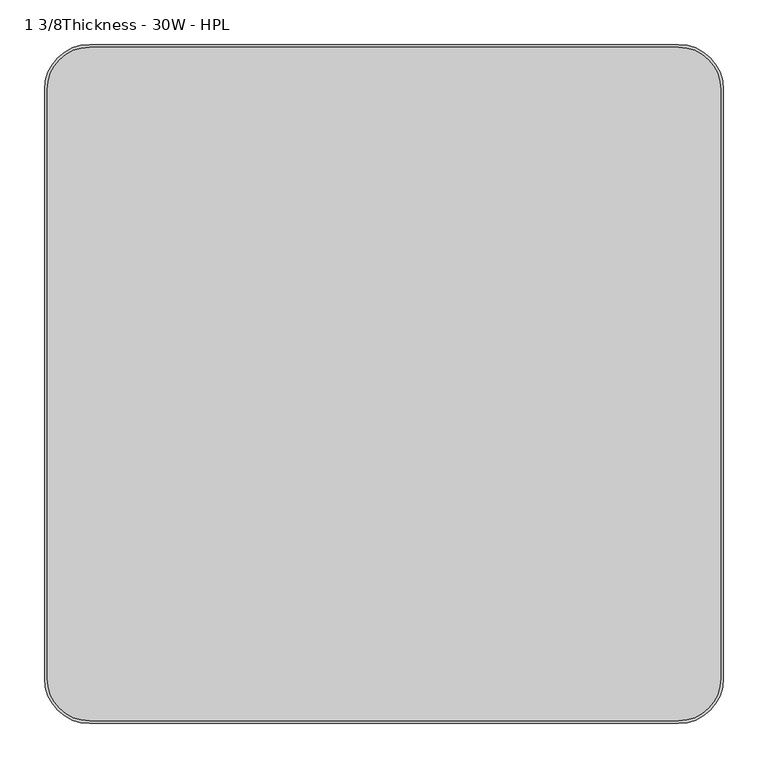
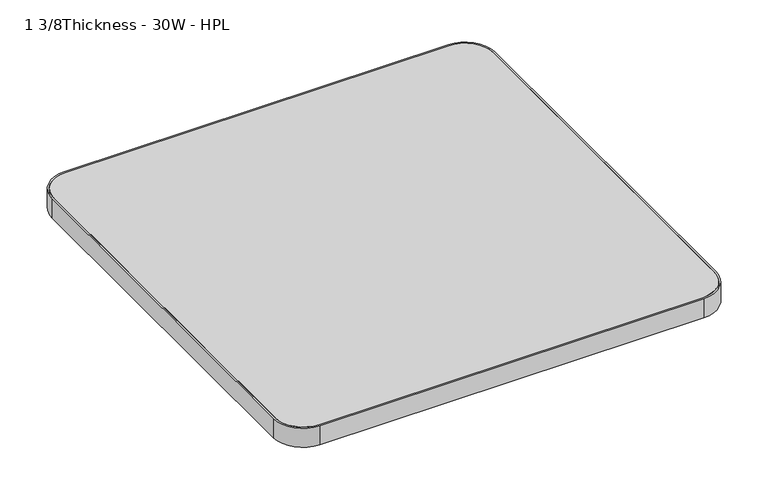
"""IFC4 building model written with IfcOpenShell, lengths in millimetres: furniture geometry, Steelcase - Groupwork - Table - Top - Square : 1 3/8Thickness - 30W - HPL."""

import ifcopenshell
import ifcopenshell.guid

model = None  # the IFC model being written
_history = None  # IfcOwnerHistory: only IFC2X3 demands one
_inside = {}  # id of a spatial element -> (the spatial element, [elements in it])
_under = {}  # id of a project, library or spatial element -> (it, [spatial elements below it])
_declared = {}  # id of a project -> (the project, [libraries it declares])
_typed = {}  # id of a type object -> (the type object, [elements of that type])
_made_of = {}  # id of a material, layer set ... -> (it, [elements and type objects made of it])


def new_model(schema):
    """Start an empty IFC model of exactly this schema.

    Asked for "IFC4X3", IfcOpenShell would pick the latest addendum, in which some entities
    have other attributes; the version numbers below select the first issue.
    IFC2X3 requires an IfcOwnerHistory on every rooted entity: one is made here for all.
    """
    global model, _history
    if schema == "IFC4X3":
        model = ifcopenshell.file(schema_version=(4, 3, 0, 0))
    else:
        model = ifcopenshell.file(schema=schema)
    _inside.clear()
    _under.clear()
    _declared.clear()
    _typed.clear()
    _made_of.clear()
    _history = None
    if model.schema == "IFC2X3":
        org = make("IfcOrganization", Name="unknown")
        user = make(
            "IfcPersonAndOrganization",
            ThePerson=make("IfcPerson", FamilyName="unknown"),
            TheOrganization=org,
        )
        app = make(
            "IfcApplication",
            ApplicationDeveloper=org,
            Version="unknown",
            ApplicationFullName="unknown",
            ApplicationIdentifier="unknown",
        )
        _history = make(
            "IfcOwnerHistory",
            OwningUser=user,
            OwningApplication=app,
            ChangeAction="ADDED",
            CreationDate=0,
        )
    return model


def make(cls, **values):
    """One entity of the class cls with the attributes given. An attribute that is None is left unset."""
    return model.create_entity(
        cls, **{name: value for name, value in values.items() if value is not None}
    )


def rooted(cls, **values):
    """An entity with a GlobalId (a new one), such as an element, a storey or a relation."""
    return make(cls, GlobalId=ifcopenshell.guid.new(), OwnerHistory=_history, **values)


def si_unit(unit_type, name, prefix=None):
    """IfcSIUnit, for example si_unit("LENGTHUNIT", "METRE", prefix="MILLI")."""
    return make("IfcSIUnit", UnitType=unit_type, Prefix=prefix, Name=name)


def assignment(units):
    """IfcUnitAssignment: the units of a project."""
    return None if units is None else make("IfcUnitAssignment", Units=units)


def point(xyz):
    """IfcCartesianPoint."""
    return None if xyz is None else make("IfcCartesianPoint", Coordinates=xyz)


def direction(xyz):
    """IfcDirection."""
    return None if xyz is None else make("IfcDirection", DirectionRatios=xyz)


def frame(location, z_axis=None, x_axis=None):
    """IfcAxis2Placement3D, a coordinate frame: its origin and axes. An axis left out is left unset."""
    return make(
        "IfcAxis2Placement3D",
        Location=point(location),
        Axis=direction(z_axis),
        RefDirection=direction(x_axis),
    )


def frame_2d(location, x_axis=None):
    """IfcAxis2Placement2D, a coordinate frame in the plane: its origin and x axis."""
    return make(
        "IfcAxis2Placement2D", Location=point(location), RefDirection=direction(x_axis)
    )


def origin():
    """The frame at (0, 0, 0) with its axes left unset."""
    return frame((0.0, 0.0, 0.0))


def place(relative_to, where):
    """IfcLocalPlacement: puts the frame where relative to a parent placement (None: the world)."""
    return make(
        "IfcLocalPlacement", PlacementRelTo=relative_to, RelativePlacement=where
    )


def context(
    kind, dimensions, precision=None, world=None, true_north=None, identifier=None
):
    """IfcGeometricRepresentationContext, for example the 3D "Model" context."""
    return make(
        "IfcGeometricRepresentationContext",
        ContextIdentifier=identifier,
        ContextType=kind,
        CoordinateSpaceDimension=dimensions,
        Precision=precision,
        WorldCoordinateSystem=world,
        TrueNorth=true_north,
    )


def project(units=None, contexts=None):
    """IfcProject with its units and contexts."""
    return rooted(
        "IfcProject",
        Name="project",
        RepresentationContexts=contexts,
        UnitsInContext=assignment(units),
    )


def spatial(cls, under=None, at=None, **own):
    """A site, building, storey or space (cls), placed at a placement, below another one or the project."""
    s = rooted(cls, ObjectPlacement=at, **own)
    if under is not None:
        _under.setdefault(under.id(), (under, []))[1].append(s)
    return s


def polyline(points):
    """IfcPolyline through the points."""
    return make("IfcPolyline", Points=[point(p) for p in points])


def circle_curve(where, radius):
    """IfcCircle in the frame where."""
    return make("IfcCircle", Position=where, Radius=radius)


def trimmed(basis, trim1, trim2, sense, master):
    """IfcTrimmedCurve: the piece of a basis curve between two trims."""
    return make(
        "IfcTrimmedCurve",
        BasisCurve=basis,
        Trim1=trim1,
        Trim2=trim2,
        SenseAgreement=sense,
        MasterRepresentation=master,
    )


def segment(curve, same_sense, transition):
    """IfcCompositeCurveSegment."""
    return make(
        "IfcCompositeCurveSegment",
        Transition=transition,
        SameSense=same_sense,
        ParentCurve=curve,
    )


def composite_curve(segments, self_intersect=None):
    """IfcCompositeCurve: segments joined end to end."""
    return make("IfcCompositeCurve", Segments=segments, SelfIntersect=self_intersect)


def outline(outer, holes=None, kind="AREA"):
    """IfcArbitraryClosedProfileDef: a profile drawn as a closed curve; with holes, ...WithVoids."""
    if holes is None:
        return make("IfcArbitraryClosedProfileDef", ProfileType=kind, OuterCurve=outer)
    return make(
        "IfcArbitraryProfileDefWithVoids",
        ProfileType=kind,
        OuterCurve=outer,
        InnerCurves=holes,
    )


def extrude(swept, where, along, depth):
    """IfcExtrudedAreaSolid: the profile swept, set in the frame where, extruded along a direction by depth."""
    return make(
        "IfcExtrudedAreaSolid",
        SweptArea=swept,
        Position=where,
        ExtrudedDirection=direction(along),
        Depth=depth,
    )


def shape(context_of_items, identifier, shape_type, items):
    """IfcShapeRepresentation: the items that make up one representation, for example the "Body"."""
    return make(
        "IfcShapeRepresentation",
        ContextOfItems=context_of_items,
        RepresentationIdentifier=identifier,
        RepresentationType=shape_type,
        Items=items,
    )


def source(mapping_origin, context_of_items, identifier, shape_type, items):
    """IfcRepresentationMap: a shape defined once, which mapped items show again and again."""
    return make(
        "IfcRepresentationMap",
        MappingOrigin=mapping_origin,
        MappedRepresentation=shape(context_of_items, identifier, shape_type, items),
    )


def transform(
    local_origin,
    x_axis=None,
    y_axis=None,
    z_axis=None,
    scale=None,
    scale2=None,
    scale3=None,
    uniform=True,
):
    """IfcCartesianTransformationOperator3D, or its non-uniform kind. x_axis, y_axis, z_axis: its Axis1, 2, 3."""
    if uniform:
        return make(
            "IfcCartesianTransformationOperator3D",
            Axis1=direction(x_axis),
            Axis2=direction(y_axis),
            LocalOrigin=point(local_origin),
            Scale=scale,
            Axis3=direction(z_axis),
        )
    return make(
        "IfcCartesianTransformationOperator3DnonUniform",
        Axis1=direction(x_axis),
        Axis2=direction(y_axis),
        LocalOrigin=point(local_origin),
        Scale=scale,
        Axis3=direction(z_axis),
        Scale2=scale2,
        Scale3=scale3,
    )


def mapped(mapping_source, mapping_target):
    """IfcMappedItem: shows the shape of a source again, moved by a transform."""
    return make(
        "IfcMappedItem", MappingSource=mapping_source, MappingTarget=mapping_target
    )


def made_of(thing, what):
    """Note that an element or type object is made of a material, layer set ...; save() writes the relation."""
    if what is not None:
        _made_of.setdefault(what.id(), (what, []))[1].append(thing)
    return thing


def element(
    cls,
    number,
    at=None,
    inside=None,
    cuts=None,
    type_object=None,
    material=None,
    context=None,
    identifier="Body",
    shape_type=None,
    held_by="IfcProductDefinitionShape",
    body=None,
    shapes=None,
    **own,
):
    """One element of the class cls, such as IfcWall. Its Tag is "e" and its number.

    at: its placement. inside: the storey or other place that contains it. cuts: it is an
    opening in that element (IfcRelVoidsElement). A single representation is given by context,
    identifier, shape_type and body (its items); several are given by shapes. held_by: the class
    of the entity that holds the representations. save() writes the other relations.
    """
    e = rooted(cls, Tag="e%d" % number, ObjectPlacement=at, **own)
    if body is not None:
        shapes = [shape(context, identifier, shape_type, body)]
    if shapes is not None:
        e.Representation = make(held_by, Representations=shapes)
    if inside is not None:
        _inside.setdefault(inside.id(), (inside, []))[1].append(e)
    if cuts is not None:
        rooted(
            "IfcRelVoidsElement", RelatingBuildingElement=cuts, RelatedOpeningElement=e
        )
    if type_object is not None:
        _typed.setdefault(type_object.id(), (type_object, []))[1].append(e)
    return made_of(e, material)


def aggregate(whole, parts):
    """IfcRelAggregates: a whole, such as a stair, and the parts it consists of."""
    return rooted("IfcRelAggregates", RelatingObject=whole, RelatedObjects=parts)


def save(model, path):
    """Write the relations noted so far, then the file.

    IfcRelAggregates (storeys below a building ...), IfcRelContainedInSpatialStructure (elements
    in a storey), IfcRelDefinesByType, IfcRelAssociatesMaterial and IfcRelDeclares: one each for
    every whole, place, type object, material and project.
    """
    for whole, parts in _under.values():
        aggregate(whole, parts)
    for where, things in _inside.values():
        rooted(
            "IfcRelContainedInSpatialStructure",
            RelatedElements=things,
            RelatingStructure=where,
        )
    for kind, things in _typed.values():
        rooted("IfcRelDefinesByType", RelatedObjects=things, RelatingType=kind)
    for what, things in _made_of.values():
        rooted("IfcRelAssociatesMaterial", RelatedObjects=things, RelatingMaterial=what)
    for by, libraries in _declared.values():
        rooted("IfcRelDeclares", RelatingContext=by, RelatedDefinitions=libraries)
    model.write(path)


def furniture_1_3_8thickness_30w_hpl_81533f82(model_context):
    return source(origin(), model_context, "Body", "SweptSolid", [
        extrude(outline(composite_curve([segment(polyline([(-358.648, 378.0), (301.848, 378.0)]), True, "CONTINUOUS"), segment(trimmed(circle_curve(frame_2d((301.848, 330.248)), 47.752), [point((301.848, 378.0))], [point((349.6, 330.248))], False, "CARTESIAN"), True, "CONTINUOUS"), segment(polyline([(349.6, 330.248), (349.6, -330.248)]), True, "CONTINUOUS"), segment(trimmed(circle_curve(frame_2d((301.848, -330.248)), 47.752), [point((349.6, -330.248))], [point((301.848, -378.0))], False, "CARTESIAN"), True, "CONTINUOUS"), segment(polyline([(301.848, -378.0), (-358.648, -378.0)]), True, "CONTINUOUS"), segment(trimmed(circle_curve(frame_2d((-358.648, -330.248)), 47.752), [point((-358.648, -378.0))], [point((-406.4, -330.248))], False, "CARTESIAN"), True, "CONTINUOUS"), segment(polyline([(-406.4, -330.248), (-406.4, 330.248)]), True, "CONTINUOUS"), segment(trimmed(circle_curve(frame_2d((-358.648, 330.248)), 47.752), [point((-406.4, 330.248))], [point((-358.648, 378.0))], False, "CARTESIAN"), True, "CONTINUOUS")], self_intersect=False)), frame((0.0, 0.0, 695.579), z_axis=(0.0, 0.0, 1.0), x_axis=(1.0, 0.0, 0.0)), (0.0, 0.0, 1.0), 35.052),
        extrude(outline(composite_curve([segment(trimmed(circle_curve(frame_2d((301.8, 330.2)), 50.8), [point((301.8, 381.0))], [point((352.6, 330.2))], False, "CARTESIAN"), True, "CONTINUOUS"), segment(polyline([(352.6, 330.2), (352.6, -330.2)]), True, "CONTINUOUS"), segment(trimmed(circle_curve(frame_2d((301.8, -330.2)), 50.8), [point((352.6, -330.2))], [point((301.8, -381.0))], False, "CARTESIAN"), True, "CONTINUOUS"), segment(polyline([(301.8, -381.0), (-358.6, -381.0)]), True, "CONTINUOUS"), segment(trimmed(circle_curve(frame_2d((-358.6, -330.2)), 50.8), [point((-358.6, -381.0))], [point((-409.4, -330.2))], False, "CARTESIAN"), True, "CONTINUOUS"), segment(polyline([(-409.4, -330.2), (-409.4, 330.2)]), True, "CONTINUOUS"), segment(trimmed(circle_curve(frame_2d((-358.6, 330.2)), 50.8), [point((-409.4, 330.2))], [point((-358.6, 381.0))], False, "CARTESIAN"), True, "CONTINUOUS"), segment(polyline([(-358.6, 381.0), (301.8, 381.0)]), True, "CONTINUOUS")], self_intersect=False), holes=[composite_curve([segment(polyline([(301.848, 378.0), (-358.648, 378.0)]), True, "CONTINUOUS"), segment(trimmed(circle_curve(frame_2d((-358.648, 330.248)), 47.752), [point((-358.648, 378.0))], [point((-406.4, 330.248))], True, "CARTESIAN"), True, "CONTINUOUS"), segment(polyline([(-406.4, 330.248), (-406.4, -330.248)]), True, "CONTINUOUS"), segment(trimmed(circle_curve(frame_2d((-358.648, -330.248)), 47.752), [point((-406.4, -330.248))], [point((-358.648, -378.0))], True, "CARTESIAN"), True, "CONTINUOUS"), segment(polyline([(-358.648, -378.0), (301.848, -378.0)]), True, "CONTINUOUS"), segment(trimmed(circle_curve(frame_2d((301.848, -330.248)), 47.752), [point((301.848, -378.0))], [point((349.6, -330.248))], True, "CARTESIAN"), True, "CONTINUOUS"), segment(polyline([(349.6, -330.248), (349.6, 330.248)]), True, "CONTINUOUS"), segment(trimmed(circle_curve(frame_2d((301.848, 330.248)), 47.752), [point((349.6, 330.248))], [point((301.848, 378.0))], True, "CARTESIAN"), True, "CONTINUOUS")], self_intersect=False)]), frame((0.0, 0.0, 695.579), z_axis=(0.0, 0.0, 1.0), x_axis=(1.0, 0.0, 0.0)), (0.0, 0.0, 1.0), 35.052),
    ])


if __name__ == "__main__":
    model = new_model("IFC4")
    model_context = context("Model", 3, world=origin())
    ifc_project = project(units=[si_unit("LENGTHUNIT", "METRE", prefix="MILLI")], contexts=[model_context])
    site = spatial("IfcSite", under=ifc_project)
    building = spatial("IfcBuilding", under=site)
    placement = place(None, origin())
    furniture_1_3_8thickness_30w_hpl_shape = furniture_1_3_8thickness_30w_hpl_81533f82(model_context)
    element("IfcFurniture", 1, ObjectType="Steelcase - Groupwork - Table - Top - Square : 1 3/8Thickness - 30W - HPL", at=placement, inside=building, context=model_context, shape_type="MappedRepresentation", body=[
        mapped(furniture_1_3_8thickness_30w_hpl_shape, transform((0.0, 0.0, 0.0), x_axis=(1.0, 0.0, 0.0), y_axis=(0.0, 1.0, 0.0), z_axis=(0.0, 0.0, 1.0))),
    ])
    save(model, "model.ifc")
